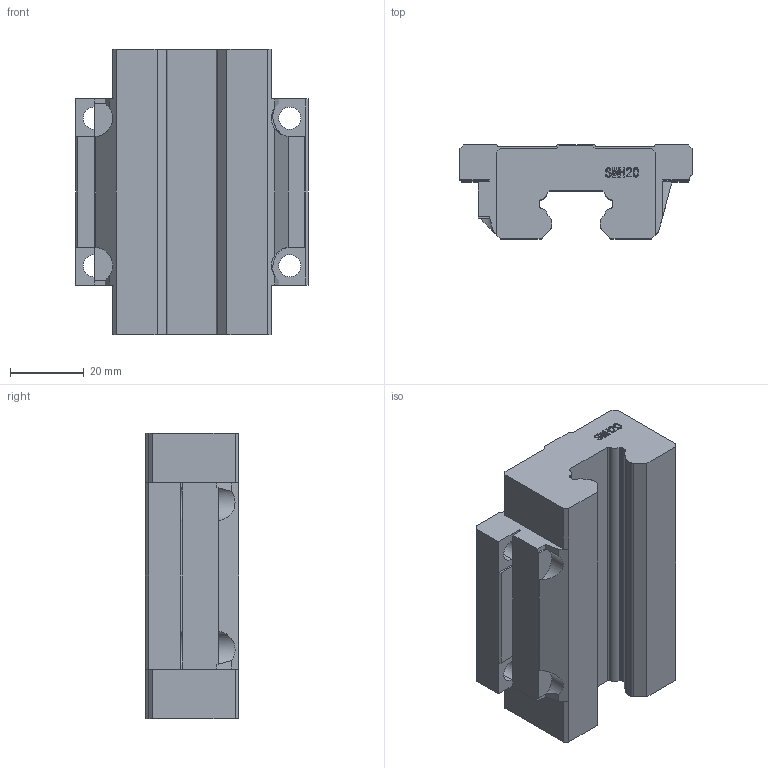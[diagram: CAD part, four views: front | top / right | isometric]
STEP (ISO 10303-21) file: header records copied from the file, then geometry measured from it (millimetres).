
FILE_DESCRIPTION (( 'STEP AP203' ), '1' );
FILE_NAME ('SMH20A.stp', '2019-09-22T08:43:44', ( 'pgos' ), ( '' ), 'SwSTEP 2.0', 'SolidWorks 2014', '' );
FILE_SCHEMA (( 'CONFIG_CONTROL_DESIGN' ));
Length unit declared in the file: millimetre
Products named in the file (1): SMH20A
Bounding box: 63 x 25.4 x 77.5 mm (x, y, z)
Volume: 79599.5 mm3; surface area: 17502.9 mm2
Topology: 1 solids, 1 shells, 193 faces, 567 edges, 382 vertices
Faces by surface type: plane 132, cylinder 36, bspline 25
Entity records: 8340 total; most frequent: CARTESIAN_POINT 3298, ORIENTED_EDGE 1134, DIRECTION 877, EDGE_CURVE 567, VECTOR 411, LINE 411, VERTEX_POINT 382, AXIS2_PLACEMENT_3D 233
